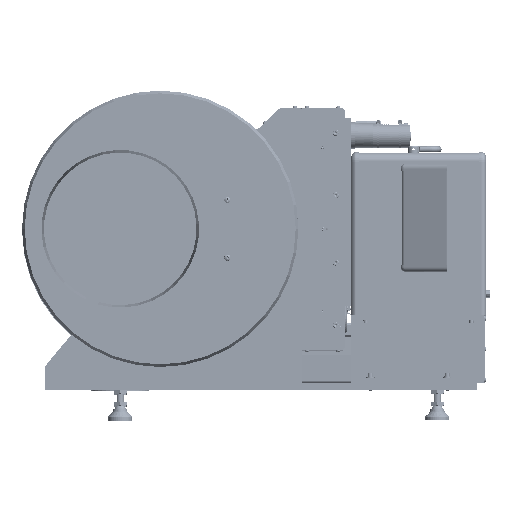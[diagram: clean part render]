
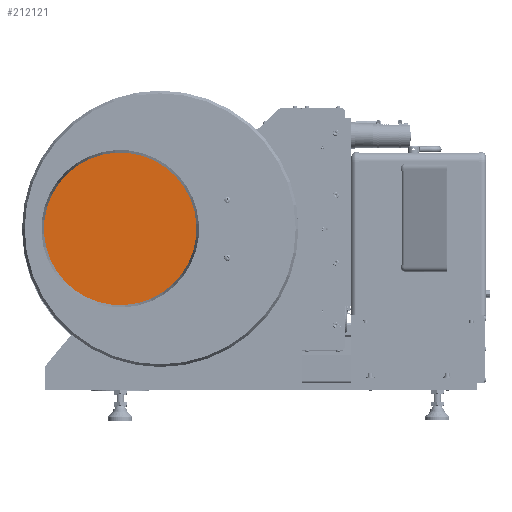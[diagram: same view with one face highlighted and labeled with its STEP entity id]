
A CAD part, top view. The second image highlights one B-rep face of the part: STEP entity #212121.
In plain terms, the highlighted planar face has unit normal (0, 0, 1).
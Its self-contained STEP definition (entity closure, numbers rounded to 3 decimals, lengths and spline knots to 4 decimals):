
#11594 = DIRECTION ( 'NONE',  ( 0., 0., 1. ) ) ;
#15835 = ORIENTED_EDGE ( 'NONE', *, *, #600142, .T. ) ;
#50399 = CIRCLE ( 'NONE', #315174, 4. ) ;
#54214 = EDGE_LOOP ( 'NONE', ( #544769, #15835 ) ) ;
#100322 = AXIS2_PLACEMENT_3D ( 'NONE', #506039, #214807, #554976 ) ;
#108086 = CARTESIAN_POINT ( 'NONE',  ( 1.92, 0., 21.32 ) ) ;
#212121 = ADVANCED_FACE ( 'NONE', ( #562367 ), #302733, .T. ) ;
#214807 = DIRECTION ( 'NONE',  ( 0., 0., 1. ) ) ;
#246223 = CIRCLE ( 'NONE', #100322, 4. ) ;
#283443 = CARTESIAN_POINT ( 'NONE',  ( -2.08, 0., 21.32 ) ) ;
#302733 = PLANE ( 'NONE',  #524709 ) ;
#315174 = AXIS2_PLACEMENT_3D ( 'NONE', #283443, #623704, #332219 ) ;
#332219 = DIRECTION ( 'NONE',  ( 1., 0., 0. ) ) ;
#351672 = DIRECTION ( 'NONE',  ( 1., 0., 0. ) ) ;
#433622 = CARTESIAN_POINT ( 'NONE',  ( -6.08, 0., 21.32 ) ) ;
#467201 = EDGE_CURVE ( 'NONE', #582684, #590207, #50399, .T. ) ;
#506039 = CARTESIAN_POINT ( 'NONE',  ( -2.08, 0., 21.32 ) ) ;
#524709 = AXIS2_PLACEMENT_3D ( 'NONE', #545166, #11594, #351672 ) ;
#544769 = ORIENTED_EDGE ( 'NONE', *, *, #467201, .T. ) ;
#545166 = CARTESIAN_POINT ( 'NONE',  ( -2.08, 0., 21.32 ) ) ;
#554976 = DIRECTION ( 'NONE',  ( 1., 0., 0. ) ) ;
#562367 = FACE_OUTER_BOUND ( 'NONE', #54214, .T. ) ;
#582684 = VERTEX_POINT ( 'NONE', #108086 ) ;
#590207 = VERTEX_POINT ( 'NONE', #433622 ) ;
#600142 = EDGE_CURVE ( 'NONE', #590207, #582684, #246223, .T. ) ;
#623704 = DIRECTION ( 'NONE',  ( 0., 0., 1. ) ) ;
